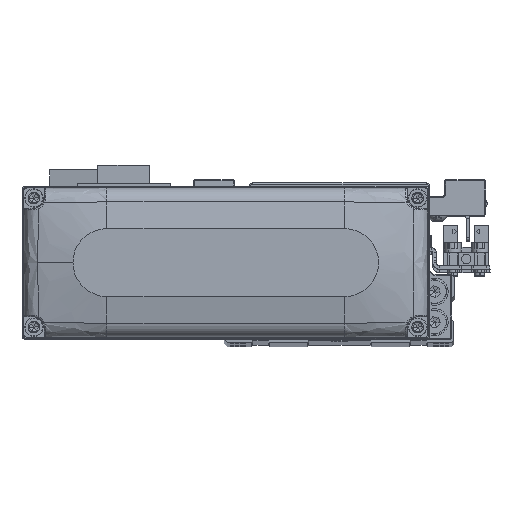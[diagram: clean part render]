
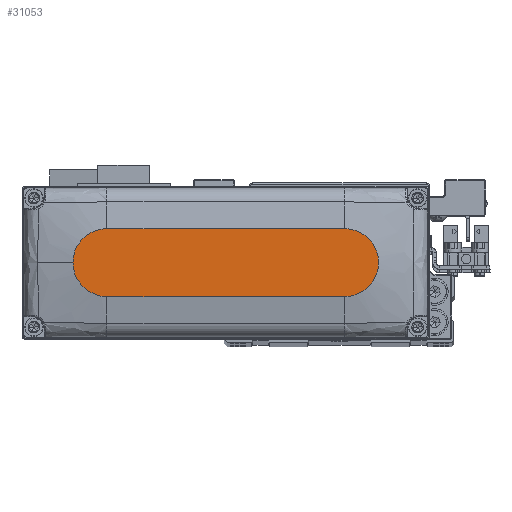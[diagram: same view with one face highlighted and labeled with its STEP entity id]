
A CAD part, top view. The second image highlights one B-rep face of the part: STEP entity #31053.
In plain terms, the highlighted planar face has unit normal (0, 0, 1).
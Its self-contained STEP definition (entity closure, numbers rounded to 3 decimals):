
#717 = VECTOR ( 'NONE', #14318, 1000. ) ;
#770 = ORIENTED_EDGE ( 'NONE', *, *, #13733, .T. ) ;
#1773 = CARTESIAN_POINT ( 'NONE',  ( -35., -10., 28. ) ) ;
#2812 = EDGE_CURVE ( 'NONE', #35146, #19387, #22280, .T. ) ;
#3312 = EDGE_CURVE ( 'NONE', #38797, #35146, #35653, .T. ) ;
#6283 = ORIENTED_EDGE ( 'NONE', *, *, #18603, .T. ) ;
#6574 = CARTESIAN_POINT ( 'NONE',  ( 35., 0., 28. ) ) ;
#6619 = DIRECTION ( 'NONE',  ( -1., 0., 0. ) ) ;
#8490 = CARTESIAN_POINT ( 'NONE',  ( 35., 0., 28. ) ) ;
#9576 = CARTESIAN_POINT ( 'NONE',  ( 0., 0., 28. ) ) ;
#12658 = CARTESIAN_POINT ( 'NONE',  ( -35., 0., 28. ) ) ;
#13733 = EDGE_CURVE ( 'NONE', #19387, #32556, #16237, .T. ) ;
#14318 = DIRECTION ( 'NONE',  ( 1., 0., 0. ) ) ;
#14521 = VECTOR ( 'NONE', #6619, 1000. ) ;
#15350 = CARTESIAN_POINT ( 'NONE',  ( 45., 0., 28. ) ) ;
#16237 = CIRCLE ( 'NONE', #39308, 10. ) ;
#17470 = EDGE_LOOP ( 'NONE', ( #37767, #770, #6283, #24733, #27789 ) ) ;
#17826 = AXIS2_PLACEMENT_3D ( 'NONE', #6574, #19126, #31714 ) ;
#18603 = EDGE_CURVE ( 'NONE', #32556, #22806, #30001, .T. ) ;
#19126 = DIRECTION ( 'NONE',  ( 0., 0., 1. ) ) ;
#19387 = VERTEX_POINT ( 'NONE', #35072 ) ;
#20182 = AXIS2_PLACEMENT_3D ( 'NONE', #8490, #21047, #33641 ) ;
#21047 = DIRECTION ( 'NONE',  ( 0., 0., 1. ) ) ;
#22141 = DIRECTION ( 'NONE',  ( 0., 0., 1. ) ) ;
#22280 = LINE ( 'NONE', #34876, #14521 ) ;
#22496 = CARTESIAN_POINT ( 'NONE',  ( 35., 10., 28. ) ) ;
#22806 = VERTEX_POINT ( 'NONE', #24538 ) ;
#23369 = AXIS2_PLACEMENT_3D ( 'NONE', #9576, #22141, #34736 ) ;
#24068 = EDGE_CURVE ( 'NONE', #22806, #38797, #37941, .T. ) ;
#24538 = CARTESIAN_POINT ( 'NONE',  ( 35., -10., 28. ) ) ;
#24733 = ORIENTED_EDGE ( 'NONE', *, *, #24068, .T. ) ;
#25241 = FACE_OUTER_BOUND ( 'NONE', #17470, .T. ) ;
#25250 = DIRECTION ( 'NONE',  ( 0., 0., 1. ) ) ;
#27789 = ORIENTED_EDGE ( 'NONE', *, *, #3312, .T. ) ;
#30001 = LINE ( 'NONE', #1773, #717 ) ;
#31053 = ADVANCED_FACE ( 'NONE', ( #25241 ), #37818, .T. ) ;
#31714 = DIRECTION ( 'NONE',  ( 1., 0., 0. ) ) ;
#32556 = VERTEX_POINT ( 'NONE', #37171 ) ;
#33641 = DIRECTION ( 'NONE',  ( 1., 0., 0. ) ) ;
#34736 = DIRECTION ( 'NONE',  ( 1., 0., 0. ) ) ;
#34876 = CARTESIAN_POINT ( 'NONE',  ( -35., 10., 28. ) ) ;
#35072 = CARTESIAN_POINT ( 'NONE',  ( -35., 10., 28. ) ) ;
#35146 = VERTEX_POINT ( 'NONE', #22496 ) ;
#35653 = CIRCLE ( 'NONE', #17826, 10. ) ;
#37171 = CARTESIAN_POINT ( 'NONE',  ( -35., -10., 28. ) ) ;
#37767 = ORIENTED_EDGE ( 'NONE', *, *, #2812, .T. ) ;
#37818 = PLANE ( 'NONE',  #23369 ) ;
#37830 = DIRECTION ( 'NONE',  ( 1., 0., 0. ) ) ;
#37941 = CIRCLE ( 'NONE', #20182, 10. ) ;
#38797 = VERTEX_POINT ( 'NONE', #15350 ) ;
#39308 = AXIS2_PLACEMENT_3D ( 'NONE', #12658, #25250, #37830 ) ;
